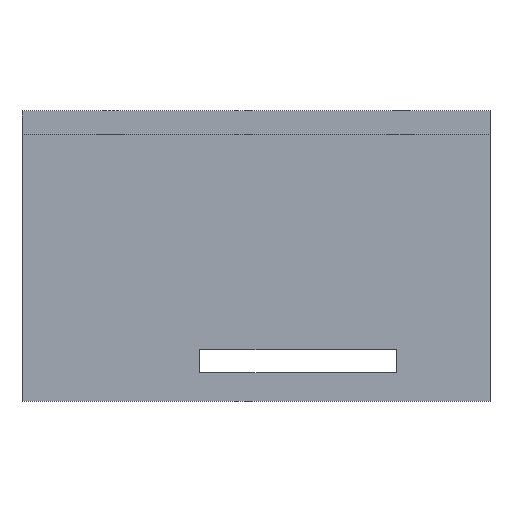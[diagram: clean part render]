
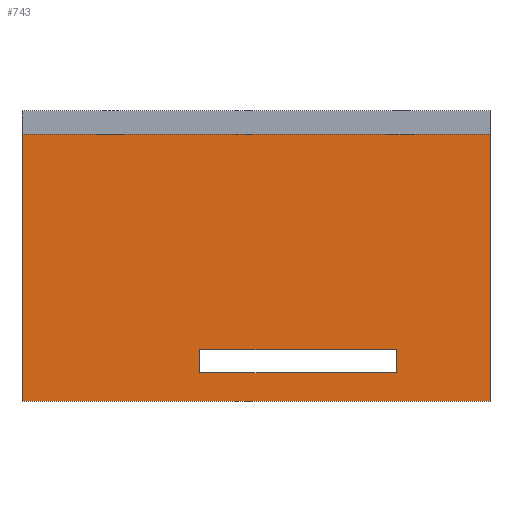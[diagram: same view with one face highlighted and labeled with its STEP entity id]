
A CAD part, front view. The second image highlights one B-rep face of the part: STEP entity #743.
In plain terms, the highlighted planar face has unit normal (0, -1, 0).
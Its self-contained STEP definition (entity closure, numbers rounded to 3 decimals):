
#32 = PLANE('',#33);
#33 = AXIS2_PLACEMENT_3D('',#34,#35,#36);
#34 = CARTESIAN_POINT('',(-50.,0.,0.));
#35 = DIRECTION('',(1.,0.,-0.));
#36 = DIRECTION('',(0.,0.,1.));
#85 = VERTEX_POINT('',#86);
#86 = CARTESIAN_POINT('',(-50.,45.,0.));
#100 = PLANE('',#101);
#101 = AXIS2_PLACEMENT_3D('',#102,#103,#104);
#102 = CARTESIAN_POINT('',(-50.,0.,0.));
#103 = DIRECTION('',(0.,0.,1.));
#104 = DIRECTION('',(1.,0.,-0.));
#112 = EDGE_CURVE('',#113,#85,#115,.T.);
#113 = VERTEX_POINT('',#114);
#114 = CARTESIAN_POINT('',(-50.,45.,-57.));
#115 = SURFACE_CURVE('',#116,(#120,#127),.PCURVE_S1.);
#116 = LINE('',#117,#118);
#117 = CARTESIAN_POINT('',(-50.,45.,-57.));
#118 = VECTOR('',#119,1.);
#119 = DIRECTION('',(0.,0.,1.));
#120 = PCURVE('',#32,#121);
#121 = DEFINITIONAL_REPRESENTATION('',(#122),#126);
#122 = LINE('',#123,#124);
#123 = CARTESIAN_POINT('',(-57.,-45.));
#124 = VECTOR('',#125,1.);
#125 = DIRECTION('',(1.,0.));
#126 = ( GEOMETRIC_REPRESENTATION_CONTEXT(2) 
PARAMETRIC_REPRESENTATION_CONTEXT() REPRESENTATION_CONTEXT('2D SPACE',''
  ) );
#127 = PCURVE('',#128,#133);
#128 = PLANE('',#129);
#129 = AXIS2_PLACEMENT_3D('',#130,#131,#132);
#130 = CARTESIAN_POINT('',(-50.,45.,-57.));
#131 = DIRECTION('',(-0.,1.,0.));
#132 = DIRECTION('',(0.,0.,1.));
#133 = DEFINITIONAL_REPRESENTATION('',(#134),#138);
#134 = LINE('',#135,#136);
#135 = CARTESIAN_POINT('',(0.,0.));
#136 = VECTOR('',#137,1.);
#137 = DIRECTION('',(1.,0.));
#138 = ( GEOMETRIC_REPRESENTATION_CONTEXT(2) 
PARAMETRIC_REPRESENTATION_CONTEXT() REPRESENTATION_CONTEXT('2D SPACE',''
  ) );
#156 = PLANE('',#157);
#157 = AXIS2_PLACEMENT_3D('',#158,#159,#160);
#158 = CARTESIAN_POINT('',(-50.,45.,-57.));
#159 = DIRECTION('',(0.,0.,1.));
#160 = DIRECTION('',(1.,0.,-0.));
#237 = PLANE('',#238);
#238 = AXIS2_PLACEMENT_3D('',#239,#240,#241);
#239 = CARTESIAN_POINT('',(50.,0.,0.));
#240 = DIRECTION('',(1.,0.,-0.));
#241 = DIRECTION('',(0.,0.,1.));
#387 = VERTEX_POINT('',#388);
#388 = CARTESIAN_POINT('',(50.,45.,0.));
#409 = EDGE_CURVE('',#387,#85,#410,.T.);
#410 = SURFACE_CURVE('',#411,(#415,#421),.PCURVE_S1.);
#411 = LINE('',#412,#413);
#412 = CARTESIAN_POINT('',(-50.,45.,0.));
#413 = VECTOR('',#414,1.);
#414 = DIRECTION('',(-1.,-0.,0.));
#415 = PCURVE('',#100,#416);
#416 = DEFINITIONAL_REPRESENTATION('',(#417),#420);
#417 = B_SPLINE_CURVE_WITH_KNOTS('',1,(#418,#419),.UNSPECIFIED.,.F.,.F.,
  (2,2),(-100.,0.),.PIECEWISE_BEZIER_KNOTS.);
#418 = CARTESIAN_POINT('',(100.,45.));
#419 = CARTESIAN_POINT('',(0.,45.));
#420 = ( GEOMETRIC_REPRESENTATION_CONTEXT(2) 
PARAMETRIC_REPRESENTATION_CONTEXT() REPRESENTATION_CONTEXT('2D SPACE',''
  ) );
#421 = PCURVE('',#128,#422);
#422 = DEFINITIONAL_REPRESENTATION('',(#423),#426);
#423 = B_SPLINE_CURVE_WITH_KNOTS('',1,(#424,#425),.UNSPECIFIED.,.F.,.F.,
  (2,2),(-100.,0.),.PIECEWISE_BEZIER_KNOTS.);
#424 = CARTESIAN_POINT('',(57.,100.));
#425 = CARTESIAN_POINT('',(57.,0.));
#426 = ( GEOMETRIC_REPRESENTATION_CONTEXT(2) 
PARAMETRIC_REPRESENTATION_CONTEXT() REPRESENTATION_CONTEXT('2D SPACE',''
  ) );
#743 = ADVANCED_FACE('',(#744,#792),#128,.F.);
#744 = FACE_BOUND('',#745,.F.);
#745 = EDGE_LOOP('',(#746,#769,#790,#791));
#746 = ORIENTED_EDGE('',*,*,#747,.F.);
#747 = EDGE_CURVE('',#748,#387,#750,.T.);
#748 = VERTEX_POINT('',#749);
#749 = CARTESIAN_POINT('',(50.,45.,-57.));
#750 = SURFACE_CURVE('',#751,(#755,#762),.PCURVE_S1.);
#751 = LINE('',#752,#753);
#752 = CARTESIAN_POINT('',(50.,45.,-57.));
#753 = VECTOR('',#754,1.);
#754 = DIRECTION('',(0.,0.,1.));
#755 = PCURVE('',#128,#756);
#756 = DEFINITIONAL_REPRESENTATION('',(#757),#761);
#757 = LINE('',#758,#759);
#758 = CARTESIAN_POINT('',(0.,100.));
#759 = VECTOR('',#760,1.);
#760 = DIRECTION('',(1.,0.));
#761 = ( GEOMETRIC_REPRESENTATION_CONTEXT(2) 
PARAMETRIC_REPRESENTATION_CONTEXT() REPRESENTATION_CONTEXT('2D SPACE',''
  ) );
#762 = PCURVE('',#237,#763);
#763 = DEFINITIONAL_REPRESENTATION('',(#764),#768);
#764 = LINE('',#765,#766);
#765 = CARTESIAN_POINT('',(-57.,-45.));
#766 = VECTOR('',#767,1.);
#767 = DIRECTION('',(1.,0.));
#768 = ( GEOMETRIC_REPRESENTATION_CONTEXT(2) 
PARAMETRIC_REPRESENTATION_CONTEXT() REPRESENTATION_CONTEXT('2D SPACE',''
  ) );
#769 = ORIENTED_EDGE('',*,*,#770,.F.);
#770 = EDGE_CURVE('',#113,#748,#771,.T.);
#771 = SURFACE_CURVE('',#772,(#776,#783),.PCURVE_S1.);
#772 = LINE('',#773,#774);
#773 = CARTESIAN_POINT('',(-50.,45.,-57.));
#774 = VECTOR('',#775,1.);
#775 = DIRECTION('',(1.,0.,-0.));
#776 = PCURVE('',#128,#777);
#777 = DEFINITIONAL_REPRESENTATION('',(#778),#782);
#778 = LINE('',#779,#780);
#779 = CARTESIAN_POINT('',(0.,0.));
#780 = VECTOR('',#781,1.);
#781 = DIRECTION('',(0.,1.));
#782 = ( GEOMETRIC_REPRESENTATION_CONTEXT(2) 
PARAMETRIC_REPRESENTATION_CONTEXT() REPRESENTATION_CONTEXT('2D SPACE',''
  ) );
#783 = PCURVE('',#156,#784);
#784 = DEFINITIONAL_REPRESENTATION('',(#785),#789);
#785 = LINE('',#786,#787);
#786 = CARTESIAN_POINT('',(0.,0.));
#787 = VECTOR('',#788,1.);
#788 = DIRECTION('',(1.,0.));
#789 = ( GEOMETRIC_REPRESENTATION_CONTEXT(2) 
PARAMETRIC_REPRESENTATION_CONTEXT() REPRESENTATION_CONTEXT('2D SPACE',''
  ) );
#790 = ORIENTED_EDGE('',*,*,#112,.T.);
#791 = ORIENTED_EDGE('',*,*,#409,.F.);
#792 = FACE_BOUND('',#793,.F.);
#793 = EDGE_LOOP('',(#794,#822,#848,#874));
#794 = ORIENTED_EDGE('',*,*,#795,.F.);
#795 = EDGE_CURVE('',#796,#798,#800,.T.);
#796 = VERTEX_POINT('',#797);
#797 = CARTESIAN_POINT('',(-12.,45.,-46.));
#798 = VERTEX_POINT('',#799);
#799 = CARTESIAN_POINT('',(30.,45.,-46.));
#800 = SURFACE_CURVE('',#801,(#805,#811),.PCURVE_S1.);
#801 = LINE('',#802,#803);
#802 = CARTESIAN_POINT('',(-31.,45.,-46.));
#803 = VECTOR('',#804,1.);
#804 = DIRECTION('',(1.,0.,-0.));
#805 = PCURVE('',#128,#806);
#806 = DEFINITIONAL_REPRESENTATION('',(#807),#810);
#807 = B_SPLINE_CURVE_WITH_KNOTS('',1,(#808,#809),.UNSPECIFIED.,.F.,.F.,
  (2,2),(19.,61.),.PIECEWISE_BEZIER_KNOTS.);
#808 = CARTESIAN_POINT('',(11.,38.));
#809 = CARTESIAN_POINT('',(11.,80.));
#810 = ( GEOMETRIC_REPRESENTATION_CONTEXT(2) 
PARAMETRIC_REPRESENTATION_CONTEXT() REPRESENTATION_CONTEXT('2D SPACE',''
  ) );
#811 = PCURVE('',#812,#817);
#812 = PLANE('',#813);
#813 = AXIS2_PLACEMENT_3D('',#814,#815,#816);
#814 = CARTESIAN_POINT('',(-12.,44.,-46.));
#815 = DIRECTION('',(0.,0.,1.));
#816 = DIRECTION('',(1.,0.,-0.));
#817 = DEFINITIONAL_REPRESENTATION('',(#818),#821);
#818 = B_SPLINE_CURVE_WITH_KNOTS('',1,(#819,#820),.UNSPECIFIED.,.F.,.F.,
  (2,2),(19.,61.),.PIECEWISE_BEZIER_KNOTS.);
#819 = CARTESIAN_POINT('',(0.,1.));
#820 = CARTESIAN_POINT('',(42.,1.));
#821 = ( GEOMETRIC_REPRESENTATION_CONTEXT(2) 
PARAMETRIC_REPRESENTATION_CONTEXT() REPRESENTATION_CONTEXT('2D SPACE',''
  ) );
#822 = ORIENTED_EDGE('',*,*,#823,.T.);
#823 = EDGE_CURVE('',#796,#824,#826,.T.);
#824 = VERTEX_POINT('',#825);
#825 = CARTESIAN_POINT('',(-12.,45.,-51.));
#826 = SURFACE_CURVE('',#827,(#831,#837),.PCURVE_S1.);
#827 = LINE('',#828,#829);
#828 = CARTESIAN_POINT('',(-12.,45.,-54.));
#829 = VECTOR('',#830,1.);
#830 = DIRECTION('',(-0.,0.,-1.));
#831 = PCURVE('',#128,#832);
#832 = DEFINITIONAL_REPRESENTATION('',(#833),#836);
#833 = B_SPLINE_CURVE_WITH_KNOTS('',1,(#834,#835),.UNSPECIFIED.,.F.,.F.,
  (2,2),(-8.,-3.),.PIECEWISE_BEZIER_KNOTS.);
#834 = CARTESIAN_POINT('',(11.,38.));
#835 = CARTESIAN_POINT('',(6.,38.));
#836 = ( GEOMETRIC_REPRESENTATION_CONTEXT(2) 
PARAMETRIC_REPRESENTATION_CONTEXT() REPRESENTATION_CONTEXT('2D SPACE',''
  ) );
#837 = PCURVE('',#838,#843);
#838 = PLANE('',#839);
#839 = AXIS2_PLACEMENT_3D('',#840,#841,#842);
#840 = CARTESIAN_POINT('',(-12.,44.,-51.));
#841 = DIRECTION('',(1.,0.,-0.));
#842 = DIRECTION('',(0.,0.,1.));
#843 = DEFINITIONAL_REPRESENTATION('',(#844),#847);
#844 = B_SPLINE_CURVE_WITH_KNOTS('',1,(#845,#846),.UNSPECIFIED.,.F.,.F.,
  (2,2),(-8.,-3.),.PIECEWISE_BEZIER_KNOTS.);
#845 = CARTESIAN_POINT('',(5.,-1.));
#846 = CARTESIAN_POINT('',(0.,-1.));
#847 = ( GEOMETRIC_REPRESENTATION_CONTEXT(2) 
PARAMETRIC_REPRESENTATION_CONTEXT() REPRESENTATION_CONTEXT('2D SPACE',''
  ) );
#848 = ORIENTED_EDGE('',*,*,#849,.T.);
#849 = EDGE_CURVE('',#824,#850,#852,.T.);
#850 = VERTEX_POINT('',#851);
#851 = CARTESIAN_POINT('',(30.,45.,-51.));
#852 = SURFACE_CURVE('',#853,(#857,#863),.PCURVE_S1.);
#853 = LINE('',#854,#855);
#854 = CARTESIAN_POINT('',(-31.,45.,-51.));
#855 = VECTOR('',#856,1.);
#856 = DIRECTION('',(1.,0.,-0.));
#857 = PCURVE('',#128,#858);
#858 = DEFINITIONAL_REPRESENTATION('',(#859),#862);
#859 = B_SPLINE_CURVE_WITH_KNOTS('',1,(#860,#861),.UNSPECIFIED.,.F.,.F.,
  (2,2),(19.,61.),.PIECEWISE_BEZIER_KNOTS.);
#860 = CARTESIAN_POINT('',(6.,38.));
#861 = CARTESIAN_POINT('',(6.,80.));
#862 = ( GEOMETRIC_REPRESENTATION_CONTEXT(2) 
PARAMETRIC_REPRESENTATION_CONTEXT() REPRESENTATION_CONTEXT('2D SPACE',''
  ) );
#863 = PCURVE('',#864,#869);
#864 = PLANE('',#865);
#865 = AXIS2_PLACEMENT_3D('',#866,#867,#868);
#866 = CARTESIAN_POINT('',(-12.,44.,-51.));
#867 = DIRECTION('',(0.,0.,1.));
#868 = DIRECTION('',(1.,0.,-0.));
#869 = DEFINITIONAL_REPRESENTATION('',(#870),#873);
#870 = B_SPLINE_CURVE_WITH_KNOTS('',1,(#871,#872),.UNSPECIFIED.,.F.,.F.,
  (2,2),(19.,61.),.PIECEWISE_BEZIER_KNOTS.);
#871 = CARTESIAN_POINT('',(0.,1.));
#872 = CARTESIAN_POINT('',(42.,1.));
#873 = ( GEOMETRIC_REPRESENTATION_CONTEXT(2) 
PARAMETRIC_REPRESENTATION_CONTEXT() REPRESENTATION_CONTEXT('2D SPACE',''
  ) );
#874 = ORIENTED_EDGE('',*,*,#875,.F.);
#875 = EDGE_CURVE('',#798,#850,#876,.T.);
#876 = SURFACE_CURVE('',#877,(#881,#887),.PCURVE_S1.);
#877 = LINE('',#878,#879);
#878 = CARTESIAN_POINT('',(30.,45.,-54.));
#879 = VECTOR('',#880,1.);
#880 = DIRECTION('',(-0.,0.,-1.));
#881 = PCURVE('',#128,#882);
#882 = DEFINITIONAL_REPRESENTATION('',(#883),#886);
#883 = B_SPLINE_CURVE_WITH_KNOTS('',1,(#884,#885),.UNSPECIFIED.,.F.,.F.,
  (2,2),(-8.,-3.),.PIECEWISE_BEZIER_KNOTS.);
#884 = CARTESIAN_POINT('',(11.,80.));
#885 = CARTESIAN_POINT('',(6.,80.));
#886 = ( GEOMETRIC_REPRESENTATION_CONTEXT(2) 
PARAMETRIC_REPRESENTATION_CONTEXT() REPRESENTATION_CONTEXT('2D SPACE',''
  ) );
#887 = PCURVE('',#888,#893);
#888 = PLANE('',#889);
#889 = AXIS2_PLACEMENT_3D('',#890,#891,#892);
#890 = CARTESIAN_POINT('',(30.,44.,-51.));
#891 = DIRECTION('',(1.,0.,-0.));
#892 = DIRECTION('',(0.,0.,1.));
#893 = DEFINITIONAL_REPRESENTATION('',(#894),#897);
#894 = B_SPLINE_CURVE_WITH_KNOTS('',1,(#895,#896),.UNSPECIFIED.,.F.,.F.,
  (2,2),(-8.,-3.),.PIECEWISE_BEZIER_KNOTS.);
#895 = CARTESIAN_POINT('',(5.,-1.));
#896 = CARTESIAN_POINT('',(0.,-1.));
#897 = ( GEOMETRIC_REPRESENTATION_CONTEXT(2) 
PARAMETRIC_REPRESENTATION_CONTEXT() REPRESENTATION_CONTEXT('2D SPACE',''
  ) );
